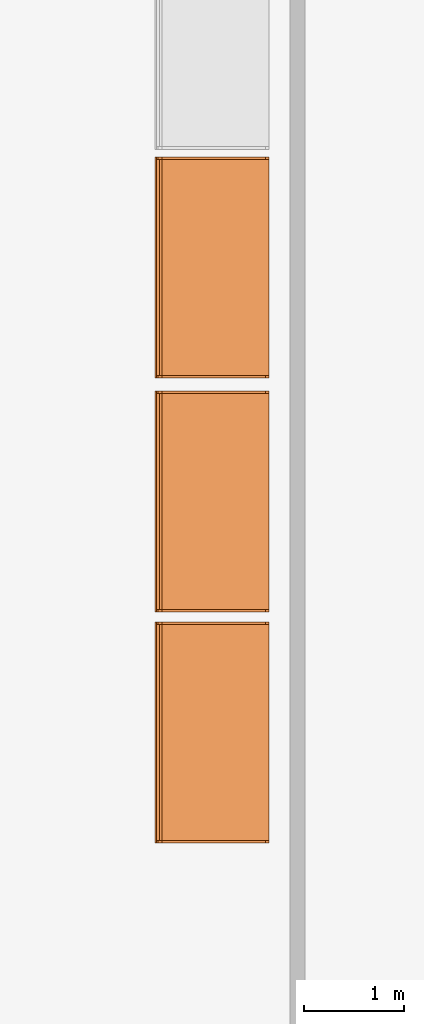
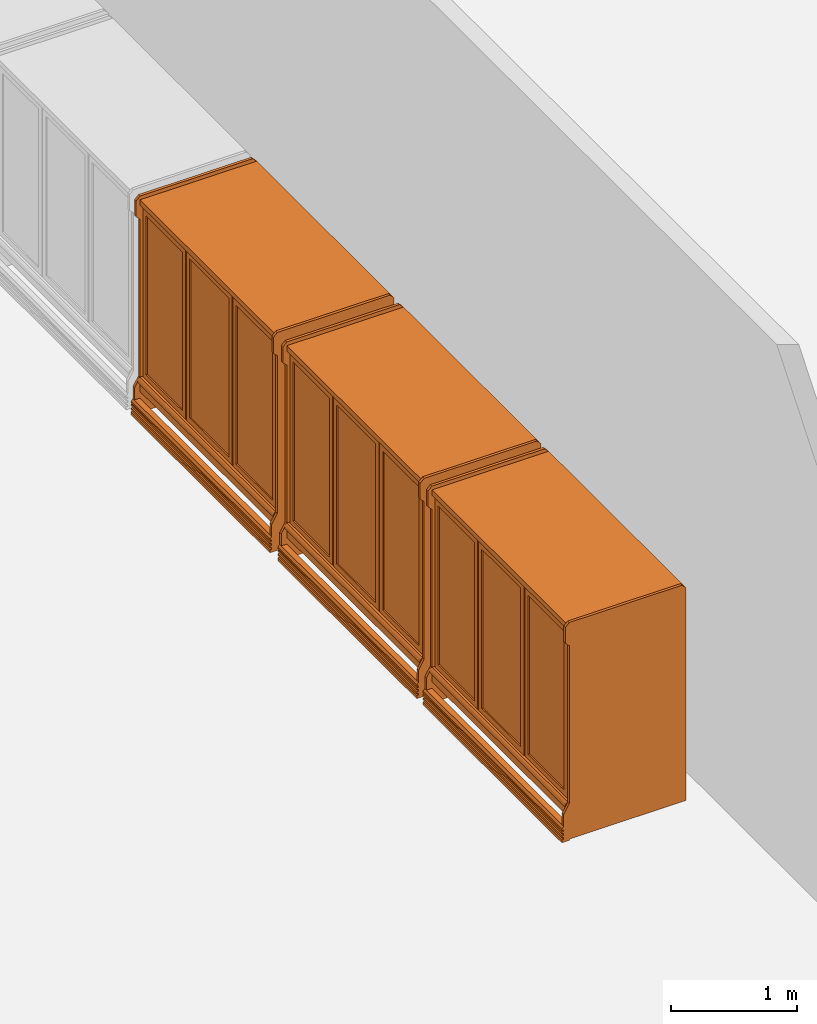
# One storey, part 3 of 11: 3 proxies.
"""IFC2X3 building model written with IfcOpenShell, lengths in metres."""

from ifc_helpers import new_model, entity, si_unit, converted_unit, derived_unit, direction, frame, frame_2d, origin, origin_2d_with_axis, place, context, subcontext, project, spatial, polyline, circle_curve, parameter, trimmed, segment, composite_curve, rectangle, outline, extrude, source, transform, mapped, material, material_list, type_object, type_shapes, element, save


model = new_model("IFC2X3")

# Units and contexts
model_context = context("Model", 3, precision=1e-05, world=origin(), true_north=direction((6.12303176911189e-17, 1.0)))
body_context = subcontext(model_context, "Body", "Model", "MODEL_VIEW")
ifc_project = project(units=[si_unit("LENGTHUNIT", "METRE"), si_unit("AREAUNIT", "SQUARE_METRE"), si_unit("VOLUMEUNIT", "CUBIC_METRE"), converted_unit("PLANEANGLEUNIT", "DEGREE", entity("IfcRatioMeasure", 0.0174532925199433), si_unit("PLANEANGLEUNIT", "RADIAN"), dimensions=[0, 0, 0, 0, 0, 0, 0]), si_unit("MASSUNIT", "GRAM", prefix="KILO"), derived_unit("MASSDENSITYUNIT", [(si_unit("MASSUNIT", "GRAM", prefix="KILO"), 1), (si_unit("LENGTHUNIT", "METRE"), -3)]), si_unit("TIMEUNIT", "SECOND"), si_unit("FREQUENCYUNIT", "HERTZ"), si_unit("THERMODYNAMICTEMPERATUREUNIT", "DEGREE_CELSIUS"), derived_unit("THERMALTRANSMITTANCEUNIT", [(si_unit("MASSUNIT", "GRAM", prefix="KILO"), 1), (si_unit("THERMODYNAMICTEMPERATUREUNIT", "KELVIN"), -1), (si_unit("TIMEUNIT", "SECOND"), -3)]), derived_unit("VOLUMETRICFLOWRATEUNIT", [(si_unit("LENGTHUNIT", "METRE"), 3), (si_unit("TIMEUNIT", "SECOND"), -1)]), si_unit("ELECTRICCURRENTUNIT", "AMPERE"), si_unit("ELECTRICVOLTAGEUNIT", "VOLT"), si_unit("POWERUNIT", "WATT"), si_unit("FORCEUNIT", "NEWTON", prefix="KILO"), si_unit("ILLUMINANCEUNIT", "LUX"), si_unit("LUMINOUSFLUXUNIT", "LUMEN"), si_unit("LUMINOUSINTENSITYUNIT", "CANDELA"), derived_unit("USERDEFINED", [(si_unit("MASSUNIT", "GRAM", prefix="KILO"), -1), (si_unit("LENGTHUNIT", "METRE"), -2), (si_unit("TIMEUNIT", "SECOND"), 3), (si_unit("LUMINOUSFLUXUNIT", "LUMEN"), 1)]), derived_unit("LINEARVELOCITYUNIT", [(si_unit("LENGTHUNIT", "METRE"), 1), (si_unit("TIMEUNIT", "SECOND"), -1)]), si_unit("PRESSUREUNIT", "PASCAL"), derived_unit("USERDEFINED", [(si_unit("LENGTHUNIT", "METRE"), -2), (si_unit("MASSUNIT", "GRAM", prefix="KILO"), 1), (si_unit("TIMEUNIT", "SECOND"), -2)])], contexts=[model_context])

# Site, building, storey
site_placement = place(None, origin())
site = spatial("IfcSite", under=ifc_project, at=site_placement, Name="Default", CompositionType="ELEMENT")
building_placement = place(site_placement, origin())
building = spatial("IfcBuilding", under=site, at=building_placement, CompositionType="ELEMENT")
storey_placement = place(building_placement, frame((0.0, 0.0, 1.49233632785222)))
storey = spatial("IfcBuildingStorey", under=building, at=storey_placement, Name="Niveau 0", CompositionType="ELEMENT", Elevation=1.49233632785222)

# Proxies
ifc_material_1 = material(Name="Métal - Chrome")
ifc_material_2 = material(Name="Verre")
ifc_material_3 = material(Name="Peinture - Blanc")
ifc_material_4 = material(Name="Plastique - Gris foncé")
ifc_material_list_1 = material_list([ifc_material_1, ifc_material_2, ifc_material_3, ifc_material_4])
ifc_material_list_2 = material_list([ifc_material_1, ifc_material_2, ifc_material_3, ifc_material_4])
building_element_proxy_type = type_object("IfcBuildingElementProxyType", Name="2200mm", PredefinedType="NOTDEFINED", material=ifc_material_list_2)
shared_shape = source(origin(), body_context, "Body", "SweptSolid", [
    extrude(outline(polyline([(-0.902820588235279, -0.198746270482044), (-0.902820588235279, -0.211446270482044), (0.824379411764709, -0.211446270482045), (0.824379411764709, -0.198746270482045), (0.608479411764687, -0.198746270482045), (0.608479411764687, -0.0923601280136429), (0.589429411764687, -0.0733101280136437), (0.589429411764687, 0.300798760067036), (0.570379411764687, 0.309681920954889), (0.570379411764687, -0.198746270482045), (0.316379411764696, -0.198746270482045), (0.316379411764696, -0.0876283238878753), (0.297329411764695, -0.0685783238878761), (0.297329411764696, 0.300798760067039), (0.278279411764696, 0.309681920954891), (0.278279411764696, -0.198746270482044), (0.0242794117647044, -0.198746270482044), (0.0242794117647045, -0.0828965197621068), (0.00522941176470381, -0.0638465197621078), (0.00522941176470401, 0.389270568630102), (-0.013820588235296, 0.398153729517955), (-0.0138205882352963, -0.198746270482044), (-0.267820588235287, -0.198746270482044), (-0.267820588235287, -0.0876283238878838), (-0.286870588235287, -0.0685783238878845), (-0.286870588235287, 0.389270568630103), (-0.305920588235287, 0.398153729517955), (-0.305920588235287, -0.198746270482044), (-0.559920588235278, -0.198746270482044), (-0.559920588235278, -0.0828965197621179), (-0.578970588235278, -0.0638465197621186), (-0.578970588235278, 0.385453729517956), (-0.598020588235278, 0.398153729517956), (-0.598020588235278, -0.198746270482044), (-0.902820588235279, -0.198746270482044)])), frame((-1.29363958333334, 0.702953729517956, 1.12917941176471), z_axis=(-1.0, 0.0, 0.0), x_axis=(0.0, 0.0, -1.0)), (0.0, 0.0, -1.0), 0.0126999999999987),
    extrude(rectangle(XDim=0.00634999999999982, YDim=0.574583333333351, at=frame_2d((-2.16840434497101e-18, 1.38777878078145e-16), x_axis=(1.0, 0.0))), frame((-0.942847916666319, 0.0285749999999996, 0.419100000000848), z_axis=(0.0, 0.0, 1.0), x_axis=(0.0, 1.0, 0.0)), (0.0, 0.0, 1.0), 1.53669999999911),
    extrude(outline(polyline([(-0.338091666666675, -0.819149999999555), (0.338091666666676, -0.819149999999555), (0.338091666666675, 0.819149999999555), (-0.338091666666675, 0.819149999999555), (-0.338091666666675, -0.819149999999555)]), holes=[polyline([(-0.287291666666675, -0.768349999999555), (-0.287291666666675, 0.768349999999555), (0.287291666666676, 0.768349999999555), (0.287291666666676, -0.768349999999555), (-0.287291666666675, -0.768349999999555)])]), frame((-0.942847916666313, 0.0126999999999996, 1.1874500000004), z_axis=(0.0, 1.0, 0.0), x_axis=(1.0, 0.0, 0.0)), (0.0, 0.0, 1.0), 0.0253999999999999),
    extrude(rectangle(XDim=0.00634999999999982, YDim=0.619033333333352, at=frame_2d((-2.16840434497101e-18, 0.0), x_axis=(1.0, 0.0))), frame((-1.65395625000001, 0.0285749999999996, 0.419100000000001), z_axis=(0.0, 0.0, 1.0), x_axis=(0.0, 1.0, 0.0)), (0.0, 0.0, 1.0), 1.5367),
    extrude(outline(polyline([(-0.360316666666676, -0.819149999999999), (0.360316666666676, -0.819149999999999), (0.360316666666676, 0.819149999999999), (-0.360316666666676, 0.819149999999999), (-0.360316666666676, -0.819149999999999)]), holes=[polyline([(-0.309516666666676, -0.768349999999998), (-0.309516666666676, 0.768349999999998), (0.309516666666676, 0.768349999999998), (0.309516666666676, -0.768349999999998), (-0.309516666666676, -0.768349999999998)])]), frame((-1.65395625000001, 0.0126999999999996, 1.18745), z_axis=(0.0, 1.0, 0.0), x_axis=(1.0, 0.0, 0.0)), (0.0, 0.0, 1.0), 0.0253999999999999),
    extrude(rectangle(XDim=0.00634999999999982, YDim=0.574583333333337, at=frame_2d((-2.16840434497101e-18, 0.0), x_axis=(1.0, 0.0))), frame((-2.36506458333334, 0.0285749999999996, 0.4191), z_axis=(0.0, 0.0, 1.0), x_axis=(0.0, 1.0, 0.0)), (0.0, 0.0, 1.0), 1.5367),
    extrude(outline(polyline([(-0.81915, -0.338091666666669), (0.81915, -0.338091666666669), (0.81915, 0.338091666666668), (-0.81915, 0.338091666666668), (-0.81915, -0.338091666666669)]), holes=[polyline([(-0.76835, -0.287291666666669), (-0.76835, 0.287291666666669), (0.76835, 0.287291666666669), (0.76835, -0.287291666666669), (-0.76835, -0.287291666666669)])]), frame((-2.36506458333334, 0.0126999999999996, 1.18745), z_axis=(0.0, 1.0, 0.0), x_axis=(0.0, 0.0, -1.0)), (0.0, 0.0, 1.0), 0.0253999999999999),
    extrude(outline(polyline([(-0.88265, -1.0746), (0.88265, -1.0746), (0.88265, 1.0746), (-0.88265, 1.0746), (-0.88265, -1.0746)]), holes=[polyline([(-0.80645, 0.385716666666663), (-0.80645, 1.0365), (0.80645, 1.0365), (0.80645, 0.385716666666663), (-0.80645, 0.385716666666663)]), polyline([(-0.80645, -0.347616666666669), (-0.80645, 0.347616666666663), (0.80645, 0.347616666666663), (0.80645, -0.347616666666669), (-0.80645, -0.347616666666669)]), polyline([(0.80645, -0.385716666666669), (0.80645, -1.0365), (-0.806450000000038, -1.0365), (-0.806450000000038, -0.385716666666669), (0.80645, -0.385716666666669)])]), frame((-1.65395625, 0.0380999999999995, 1.18745), z_axis=(0.0, 1.0, 0.0), x_axis=(0.0, 0.0, -1.0)), (0.0, 0.0, 1.0), 0.0381),
    extrude(outline(composite_curve([segment(trimmed(circle_curve(frame_2d((-0.0095885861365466, 0.0), x_axis=(1.0, 0.0)), 0.0327139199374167), [parameter(287.043889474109)], [parameter(72.9561105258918)], True, "PARAMETER"), True, "CONTINUOUS"), segment(polyline([(0.0, 0.0312771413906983), (0.0, -0.0312771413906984)]), True, "CONTINUOUS")], self_intersect=False)), frame((-2.72855625, 0.0, 0.324322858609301), z_axis=(1.0, 0.0, 0.0), x_axis=(0.0, -1.0, 0.0)), (0.0, 0.0, 1.0), 2.1492),
    extrude(outline(polyline([(-0.058322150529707, -0.045007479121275), (-0.0317412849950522, -0.045007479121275), (-0.0206789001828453, -0.0360006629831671), (-0.0312750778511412, -0.0229861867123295), (-0.0214265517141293, -0.0149676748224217), (-0.0108303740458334, -0.0279821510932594), (0.00394241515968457, -0.0159543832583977), (-0.00665376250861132, -0.00293990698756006), (0.00811902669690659, 0.0090878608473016), (0.0187152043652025, -0.00392661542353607), (0.0334879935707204, 0.00810115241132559), (0.0228918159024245, 0.0211156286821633), (0.0376646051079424, 0.0331433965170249), (0.0482607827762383, 0.0201289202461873), (0.0704563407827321, 0.0382001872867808), (0.0277861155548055, 0.0906087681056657), (-0.0903961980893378, -0.00561337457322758), (-0.058322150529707, -0.045007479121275)])), frame((-2.75395625, -0.052721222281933, 0.0787558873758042), z_axis=(1.0, 0.0, 0.0), x_axis=(0.0, -0.631378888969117, -0.775474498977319)), (0.0, 0.0, 1.0), 2.2),
    extrude(outline(polyline([(-0.78162589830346, -1.01392662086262), (0.249253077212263, -1.01392662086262), (0.285174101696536, -0.978005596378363), (0.285174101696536, -0.825605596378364), (0.249253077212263, -0.789684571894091), (0.249253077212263, 0.736494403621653), (0.300053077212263, 0.824482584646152), (0.300053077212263, 0.939694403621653), (0.249253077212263, 0.939694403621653), (0.249253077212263, 1.07939440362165), (-0.817546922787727, 1.07939440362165), (-0.817546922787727, -0.978005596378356), (-0.78162589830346, -1.01392662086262)])), frame((-0.579356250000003, 0.249253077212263, 1.09209440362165), z_axis=(1.0, 0.0, 0.0), x_axis=(0.0, -1.0, 0.0)), (0.0, 0.0, 1.0), 0.0254000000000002),
    extrude(outline(polyline([(-0.78162589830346, -1.01392662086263), (0.249253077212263, -1.01392662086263), (0.285174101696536, -0.978005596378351), (0.285174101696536, -0.825605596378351), (0.249253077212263, -0.789684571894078), (0.249253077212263, 0.736494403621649), (0.300053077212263, 0.824482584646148), (0.300053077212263, 0.939694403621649), (0.249253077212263, 0.939694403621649), (0.249253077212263, 1.07939440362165), (-0.817546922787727, 1.07939440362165), (-0.817546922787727, -0.97800559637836), (-0.78162589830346, -1.01392662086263)])), frame((-2.75395625, 0.249253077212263, 1.09209440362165), z_axis=(1.0, 0.0, 0.0), x_axis=(0.0, -1.0, 0.0)), (0.0, 0.0, 1.0), 0.0253999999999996),
    extrude(rectangle(XDim=2.1238, YDim=0.6096, at=origin_2d_with_axis()), frame((-1.65395625, 0.596900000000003, 0.558800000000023)), (0.0, 0.0, 1.0), 0.009525),
    extrude(rectangle(XDim=2.1238, YDim=0.6096, at=origin_2d_with_axis()), frame((-1.65395625, 0.596900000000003, 1.72719999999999)), (0.0, 0.0, 1.0), 0.009525),
    extrude(rectangle(XDim=2.1238, YDim=0.6096, at=origin_2d_with_axis()), frame((-1.65395625, 0.596900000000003, 1.4351)), (0.0, 0.0, 1.0), 0.009525),
    extrude(rectangle(XDim=2.1238, YDim=0.6096, at=frame_2d((0.0, -5.55111512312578e-17), x_axis=(1.0, 0.0))), frame((-1.65395625, 0.596900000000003, 1.14300000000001)), (0.0, 0.0, 1.0), 0.009525),
    extrude(rectangle(XDim=2.1238, YDim=0.6096, at=frame_2d((0.0, -5.55111512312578e-17), x_axis=(1.0, 0.0))), frame((-1.65395625, 0.596900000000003, 0.850900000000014)), (0.0, 0.0, 1.0), 0.009525),
    extrude(outline(polyline([(-0.902820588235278, -0.198746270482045), (-0.902820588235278, -0.211446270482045), (0.82437941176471, -0.211446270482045), (0.82437941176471, -0.198746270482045), (0.608479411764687, -0.198746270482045), (0.608479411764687, -0.0923601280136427), (0.589429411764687, -0.0733101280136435), (0.589429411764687, 0.300798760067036), (0.570379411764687, 0.309681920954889), (0.570379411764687, -0.198746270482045), (0.316379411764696, -0.198746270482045), (0.316379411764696, -0.0876283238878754), (0.297329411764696, -0.0685783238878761), (0.297329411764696, 0.300798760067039), (0.278279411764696, 0.309681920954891), (0.278279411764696, -0.198746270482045), (0.0242794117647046, -0.198746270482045), (0.0242794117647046, -0.0828965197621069), (0.00522941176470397, -0.063846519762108), (0.00522941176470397, 0.389270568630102), (-0.013820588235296, 0.398153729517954), (-0.013820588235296, -0.198746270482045), (-0.267820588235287, -0.198746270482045), (-0.267820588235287, -0.0876283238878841), (-0.286870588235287, -0.0685783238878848), (-0.286870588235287, 0.389270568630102), (-0.305920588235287, 0.398153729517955), (-0.305920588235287, -0.198746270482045), (-0.559920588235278, -0.198746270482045), (-0.559920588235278, -0.0828965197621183), (-0.578970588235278, -0.0638465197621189), (-0.578970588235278, 0.385453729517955), (-0.598020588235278, 0.398153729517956), (-0.598020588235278, -0.198746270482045), (-0.902820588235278, -0.198746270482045)])), frame((-2.02683434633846, 0.702953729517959, 1.12917941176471), z_axis=(-1.0, 0.0, 0.0), x_axis=(0.0, 0.0, -1.0)), (0.0, 0.0, -1.0), 0.0124228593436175),
    extrude(outline(polyline([(-0.902820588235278, -0.198746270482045), (-0.902820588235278, -0.211446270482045), (0.82437941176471, -0.211446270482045), (0.82437941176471, -0.198746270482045), (0.608479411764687, -0.198746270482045), (0.608479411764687, -0.0923601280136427), (0.589429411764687, -0.0733101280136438), (0.589429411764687, 0.300798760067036), (0.570379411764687, 0.309681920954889), (0.570379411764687, -0.198746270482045), (0.316379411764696, -0.198746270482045), (0.316379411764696, -0.0876283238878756), (0.297329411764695, -0.068578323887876), (0.297329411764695, 0.300798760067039), (0.278279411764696, 0.309681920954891), (0.278279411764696, -0.198746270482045), (0.0242794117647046, -0.198746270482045), (0.0242794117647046, -0.0828965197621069), (0.00522941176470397, -0.063846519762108), (0.00522941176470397, 0.389270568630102), (-0.013820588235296, 0.398153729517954), (-0.013820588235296, -0.198746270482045), (-0.267820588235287, -0.198746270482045), (-0.267820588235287, -0.0876283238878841), (-0.286870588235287, -0.0685783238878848), (-0.286870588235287, 0.389270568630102), (-0.305920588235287, 0.398153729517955), (-0.305920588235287, -0.198746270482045), (-0.559920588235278, -0.198746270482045), (-0.559920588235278, -0.0828965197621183), (-0.578970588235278, -0.0638465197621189), (-0.578970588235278, 0.385453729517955), (-0.598020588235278, 0.398153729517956), (-0.598020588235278, -0.198746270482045), (-0.902820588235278, -0.198746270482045)])), frame((-0.604756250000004, 0.702953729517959, 1.12917941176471), z_axis=(-1.0, 0.0, 0.0), x_axis=(0.0, 0.0, -1.0)), (0.0, 0.0, -1.0), 0.0127000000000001),
    extrude(outline(polyline([(-0.902820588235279, -0.198746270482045), (-0.902820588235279, -0.211446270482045), (0.824379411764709, -0.211446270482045), (0.824379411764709, -0.198746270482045), (0.608479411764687, -0.198746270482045), (0.608479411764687, -0.0923601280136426), (0.589429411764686, -0.0733101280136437), (0.589429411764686, 0.300798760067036), (0.570379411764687, 0.309681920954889), (0.570379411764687, -0.198746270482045), (0.316379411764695, -0.198746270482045), (0.316379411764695, -0.0876283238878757), (0.297329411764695, -0.0685783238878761), (0.297329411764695, 0.300798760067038), (0.278279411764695, 0.309681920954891), (0.278279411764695, -0.198746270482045), (0.0242794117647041, -0.198746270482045), (0.0242794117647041, -0.082896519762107), (0.00522941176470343, -0.0638465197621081), (0.00522941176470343, 0.389270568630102), (-0.0138205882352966, 0.398153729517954), (-0.0138205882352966, -0.198746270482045), (-0.267820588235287, -0.198746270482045), (-0.267820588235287, -0.0876283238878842), (-0.286870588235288, -0.0685783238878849), (-0.286870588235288, 0.389270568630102), (-0.305920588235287, 0.398153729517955), (-0.305920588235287, -0.198746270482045), (-0.559920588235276, -0.198746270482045), (-0.559920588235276, -0.0828965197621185), (-0.578970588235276, -0.0638465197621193), (-0.578970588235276, 0.385453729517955), (-0.598020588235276, 0.398153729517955), (-0.598020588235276, -0.198746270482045), (-0.902820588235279, -0.198746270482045)])), frame((-2.71585625, 0.702953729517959, 1.12917941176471), z_axis=(-1.0, 0.0, 0.0), x_axis=(0.0, 0.0, -1.0)), (0.0, 0.0, -1.0), 0.0127000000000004),
    extrude(outline(polyline([(-0.99836485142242, -0.344904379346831), (-0.947564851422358, -0.344904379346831), (-0.947564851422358, -0.192504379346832), (-0.960264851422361, -0.192504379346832), (-0.960264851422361, 0.569495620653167), (0.766935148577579, 0.569495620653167), (0.766935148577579, -0.306804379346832), (0.716135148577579, -0.306804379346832), (0.716135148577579, -0.344904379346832), (0.855178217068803, -0.344904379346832), (0.995535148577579, -0.204547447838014), (0.995535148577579, 0.721895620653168), (-0.99836485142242, 0.721895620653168), (-0.99836485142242, -0.344904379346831)])), frame((-2.72855625, 0.344904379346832, 1.07173514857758), z_axis=(1.0, 0.0, 0.0), x_axis=(0.0, 0.0, -1.0)), (0.0, 0.0, 1.0), 2.1492),
    extrude(rectangle(XDim=2.1492, YDim=0.85725, at=frame_2d((2.22044604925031e-16, 0.0), x_axis=(1.0, 0.0))), frame((-1.65395625, 0.619125, 0.0), z_axis=(0.0, 0.0, 1.0), x_axis=(-1.0, 0.0, 0.0)), (0.0, 0.0, 1.0), 0.0762),
])
type_shapes(building_element_proxy_type, [shared_shape])
proxy_1_placement = place(storey_placement, frame((32.9158645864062, -15.0928416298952, 0.0), z_axis=(0.0, 0.0, 1.0), x_axis=(0.0, -1.0, 0.0)))
element("IfcBuildingElementProxy", 1, at=proxy_1_placement, inside=storey, type_object=building_element_proxy_type, material=ifc_material_list_1, Name="Congélateur - Vertical trois portes:2200mm", ObjectType="Congélateur - Vertical trois portes:2200mm", context=body_context, shape_type="MappedRepresentation", body=[
    mapped(shared_shape, transform((0.0, 0.0, 0.0), scale=1.0)),
])
ifc_material_list_3 = material_list([ifc_material_1, ifc_material_2, ifc_material_3, ifc_material_4])
proxy_2_placement = place(storey_placement, frame((32.9158645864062, -17.4185313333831, 0.0), z_axis=(0.0, 0.0, 1.0), x_axis=(0.0, -1.0, 0.0)))
element("IfcBuildingElementProxy", 2, at=proxy_2_placement, inside=storey, type_object=building_element_proxy_type, material=ifc_material_list_3, Name="Congélateur - Vertical trois portes:2200mm", ObjectType="Congélateur - Vertical trois portes:2200mm", context=body_context, shape_type="MappedRepresentation", body=[
    mapped(shared_shape, transform((0.0, 0.0, 0.0), scale=1.0)),
])
ifc_material_list_4 = material_list([ifc_material_1, ifc_material_2, ifc_material_3, ifc_material_4])
proxy_3_placement = place(storey_placement, frame((32.9158645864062, -19.7168178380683, 0.0), z_axis=(0.0, 0.0, 1.0), x_axis=(0.0, -1.0, 0.0)))
element("IfcBuildingElementProxy", 3, at=proxy_3_placement, inside=storey, type_object=building_element_proxy_type, material=ifc_material_list_4, Name="Congélateur - Vertical trois portes:2200mm", ObjectType="Congélateur - Vertical trois portes:2200mm", context=body_context, shape_type="MappedRepresentation", body=[
    mapped(shared_shape, transform((0.0, 0.0, 0.0), scale=1.0)),
])

save(model, "model.ifc")
